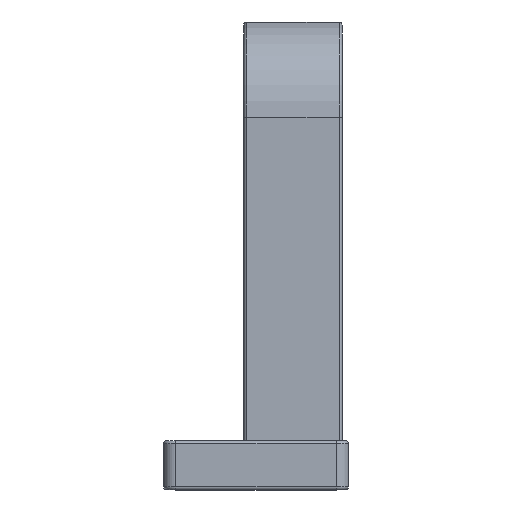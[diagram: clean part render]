
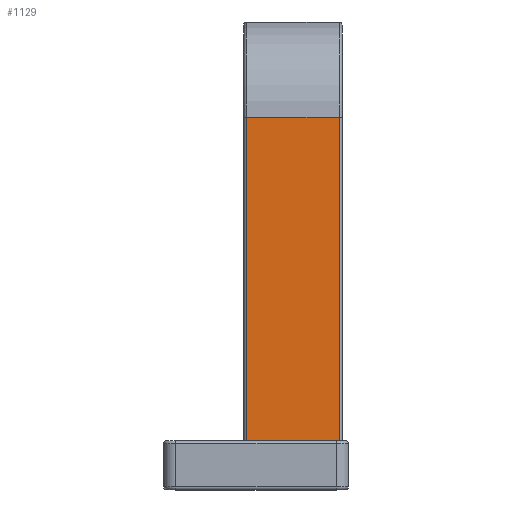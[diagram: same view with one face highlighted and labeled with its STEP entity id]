
A CAD part, left-side view. The second image highlights one B-rep face of the part: STEP entity #1129.
In plain terms, the highlighted planar face has unit normal (-1, 0, 0).
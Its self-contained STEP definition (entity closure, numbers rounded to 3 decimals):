
#111=FACE_OUTER_BOUND('',#185,.T.);
#185=EDGE_LOOP('',(#945,#946,#947,#948));
#341=LINE('',#1919,#423);
#353=LINE('',#1957,#435);
#359=LINE('',#1978,#441);
#360=LINE('',#1979,#442);
#423=VECTOR('',#1550,10.);
#435=VECTOR('',#1586,10.);
#441=VECTOR('',#1606,10.);
#442=VECTOR('',#1607,10.);
#519=VERTEX_POINT('',#1917);
#520=VERTEX_POINT('',#1918);
#534=VERTEX_POINT('',#1956);
#542=VERTEX_POINT('',#1977);
#653=EDGE_CURVE('',#519,#520,#341,.T.);
#672=EDGE_CURVE('',#519,#534,#353,.T.);
#683=EDGE_CURVE('',#542,#520,#359,.T.);
#684=EDGE_CURVE('',#542,#534,#360,.T.);
#945=ORIENTED_EDGE('',*,*,#653,.T.);
#946=ORIENTED_EDGE('',*,*,#683,.F.);
#947=ORIENTED_EDGE('',*,*,#684,.T.);
#948=ORIENTED_EDGE('',*,*,#672,.F.);
#1077=PLANE('',#1276);
#1129=ADVANCED_FACE('',(#111),#1077,.F.);
#1276=AXIS2_PLACEMENT_3D('',#1976,#1604,#1605);
#1550=DIRECTION('',(0.,-1.,0.));
#1586=DIRECTION('',(0.,0.,1.));
#1604=DIRECTION('center_axis',(1.,0.,0.));
#1605=DIRECTION('ref_axis',(0.,0.,
1.));
#1606=DIRECTION('',(0.,0.,-1.));
#1607=DIRECTION('',(0.,1.,0.));
#1917=CARTESIAN_POINT('',(-860.,31.5,14.));
#1918=CARTESIAN_POINT('',(-860.,16.5,14.));
#1919=CARTESIAN_POINT('',(-860.,24.4,14.));
#1956=CARTESIAN_POINT('',(-860.,31.5,66.5));
#1957=CARTESIAN_POINT('',(-860.,31.5,8.));
#1976=CARTESIAN_POINT('Origin',(-860.,16.,42.));
#1977=CARTESIAN_POINT('',(-860.,16.5,66.5));
#1978=CARTESIAN_POINT('',(-860.,16.5,66.5));
#1979=CARTESIAN_POINT('',(-860.,16.5,66.5));
